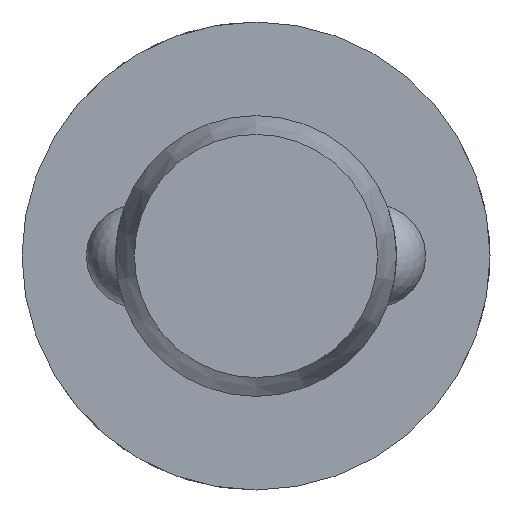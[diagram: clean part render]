
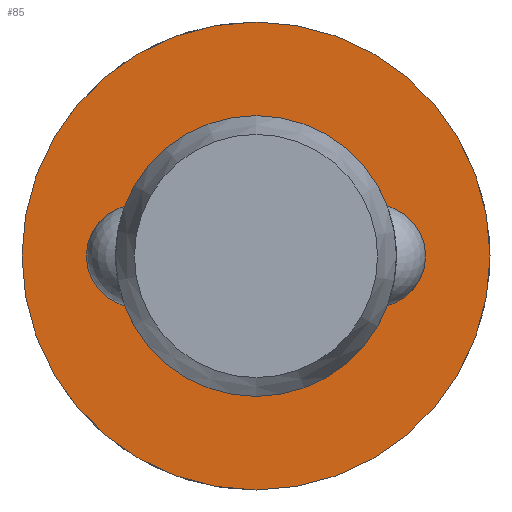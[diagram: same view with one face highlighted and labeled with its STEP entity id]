
A CAD part, left-side view. The second image highlights one B-rep face of the part: STEP entity #85.
In plain terms, the highlighted planar face has unit normal (-1, 0, 0).
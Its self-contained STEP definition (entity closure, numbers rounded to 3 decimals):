
#85 = ADVANCED_FACE( '', ( #130, #131 ), #132, .F. );
#130 = FACE_OUTER_BOUND( '', #201, .T. );
#131 = FACE_BOUND( '', #202, .T. );
#132 = PLANE( '', #203 );
#201 = EDGE_LOOP( '', ( #317 ) );
#202 = EDGE_LOOP( '', ( #318 ) );
#203 = AXIS2_PLACEMENT_3D( '', #319, #320, #321 );
#317 = ORIENTED_EDGE( '', *, *, #461, .F. );
#318 = ORIENTED_EDGE( '', *, *, #458, .T. );
#319 = CARTESIAN_POINT( '', ( 55.6, 6., 0. ) );
#320 = DIRECTION( '', ( 1., 0., 0. ) );
#321 = DIRECTION( '', ( 0., 0., -1. ) );
#458 = EDGE_CURVE( '', #532, #532, #533, .T. );
#461 = EDGE_CURVE( '', #538, #538, #539, .T. );
#532 = VERTEX_POINT( '', #742 );
#533 = CIRCLE( '', #743, 6. );
#538 = VERTEX_POINT( '', #858 );
#539 = CIRCLE( '', #859, 10. );
#742 = CARTESIAN_POINT( '', ( 55.6, 0., -6. ) );
#743 = AXIS2_PLACEMENT_3D( '', #936, #937, #938 );
#858 = CARTESIAN_POINT( '', ( 55.6, 0., -10. ) );
#859 = AXIS2_PLACEMENT_3D( '', #939, #940, #941 );
#936 = CARTESIAN_POINT( '', ( 55.6, 0., 0. ) );
#937 = DIRECTION( '', ( 1., 0., 0. ) );
#938 = DIRECTION( '', ( 0., 0., -1. ) );
#939 = CARTESIAN_POINT( '', ( 55.6, 0., 0. ) );
#940 = DIRECTION( '', ( 1., 0., 0. ) );
#941 = DIRECTION( '', ( 0., 0., -1. ) );
